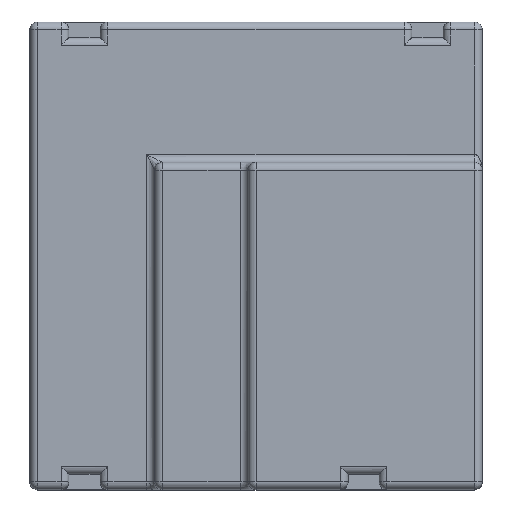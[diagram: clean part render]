
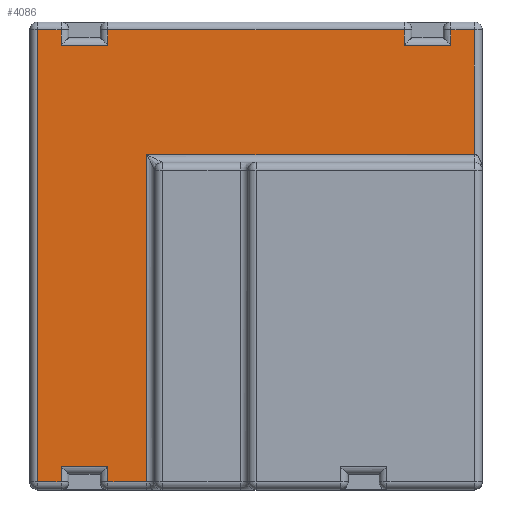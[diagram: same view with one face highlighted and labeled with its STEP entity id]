
A CAD part, top view. The second image highlights one B-rep face of the part: STEP entity #4086.
In plain terms, the highlighted planar face has unit normal (0, 0, 1).
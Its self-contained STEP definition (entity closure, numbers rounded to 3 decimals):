
#1080=CARTESIAN_POINT('',(7.5,-8.5,10.2));
#1090=DIRECTION('',(-1.,0.,0.));
#1091=VECTOR('',#1090,21.);
#1092=CARTESIAN_POINT('',(28.5,-8.5,10.2));
#1093=LINE('',#1092,#1091);
#1165=DIRECTION('',(0.,-1.,0.));
#1166=VECTOR('',#1165,21.);
#1167=CARTESIAN_POINT('',(7.5,-8.5,10.2));
#1168=LINE('',#1167,#1166);
#1198=DIRECTION('',(-1.,0.,0.));
#1199=VECTOR('',#1198,2.5);
#1200=CARTESIAN_POINT('',(7.5,-29.5,10.2));
#1201=LINE('',#1200,#1199);
#1371=DIRECTION('',(0.,-1.,0.));
#1372=VECTOR('',#1371,1.);
#1373=CARTESIAN_POINT('',(2.,-28.5,10.2));
#1374=LINE('',#1373,#1372);
#1385=DIRECTION('',(0.,1.,0.));
#1386=VECTOR('',#1385,1.);
#1387=CARTESIAN_POINT('',(27.,-1.5,10.2));
#1388=LINE('',#1387,#1386);
#1509=DIRECTION('',(0.,-1.,0.));
#1510=VECTOR('',#1509,8.);
#1511=CARTESIAN_POINT('',(28.5,-0.5,10.2));
#1512=LINE('',#1511,#1510);
#1572=DIRECTION('',(1.,0.,0.));
#1573=VECTOR('',#1572,1.5);
#1574=CARTESIAN_POINT('',(27.,-0.5,10.2));
#1575=LINE('',#1574,#1573);
#1636=DIRECTION('',(1.,0.,0.));
#1637=VECTOR('',#1636,3.);
#1638=CARTESIAN_POINT('',(24.,-1.5,10.2));
#1639=LINE('',#1638,#1637);
#1686=CARTESIAN_POINT('',(27.,-1.5,10.2));
#1703=DIRECTION('',(0.,-1.,0.));
#1704=VECTOR('',#1703,1.);
#1705=CARTESIAN_POINT('',(24.,-0.5,10.2));
#1706=LINE('',#1705,#1704);
#1750=DIRECTION('',(1.,0.,0.));
#1751=VECTOR('',#1750,19.);
#1752=CARTESIAN_POINT('',(5.,-0.5,10.2));
#1753=LINE('',#1752,#1751);
#1804=DIRECTION('',(0.,1.,0.));
#1805=VECTOR('',#1804,1.);
#1806=CARTESIAN_POINT('',(5.,-1.5,10.2));
#1807=LINE('',#1806,#1805);
#1848=DIRECTION('',(1.,0.,0.));
#1849=VECTOR('',#1848,3.);
#1850=CARTESIAN_POINT('',(2.,-1.5,10.2));
#1851=LINE('',#1850,#1849);
#1942=DIRECTION('',(0.,-1.,0.));
#1943=VECTOR('',#1942,1.);
#1944=CARTESIAN_POINT('',(2.,-0.5,10.2));
#1945=LINE('',#1944,#1943);
#2011=DIRECTION('',(1.,0.,0.));
#2012=VECTOR('',#2011,1.5);
#2013=CARTESIAN_POINT('',(0.5,-0.5,10.2));
#2014=LINE('',#2013,#2012);
#2086=DIRECTION('',(0.,1.,0.));
#2087=VECTOR('',#2086,29.);
#2088=CARTESIAN_POINT('',(0.5,-29.5,10.2));
#2089=LINE('',#2088,#2087);
#2161=DIRECTION('',(-1.,0.,0.));
#2162=VECTOR('',#2161,1.5);
#2163=CARTESIAN_POINT('',(2.,-29.5,10.2));
#2164=LINE('',#2163,#2162);
#2175=DIRECTION('',(0.,1.,0.));
#2176=VECTOR('',#2175,1.);
#2177=CARTESIAN_POINT('',(5.,-29.5,10.2));
#2178=LINE('',#2177,#2176);
#2212=DIRECTION('',(-1.,0.,0.));
#2213=VECTOR('',#2212,3.);
#2214=CARTESIAN_POINT('',(5.,-28.5,10.2));
#2215=LINE('',#2214,#2213);
#2626=VERTEX_POINT('',#1080);
#2686=CARTESIAN_POINT('',(7.5,-29.5,10.2));
#2687=VERTEX_POINT('',#2686);
#2705=CARTESIAN_POINT('',(24.,-0.5,10.2));
#2706=VERTEX_POINT('',#2705);
#2707=CARTESIAN_POINT('',(24.,-1.5,10.2));
#2708=VERTEX_POINT('',#2707);
#2712=CARTESIAN_POINT('',(27.,-0.5,10.2));
#2714=VERTEX_POINT('',#2712);
#2720=VERTEX_POINT('',#1686);
#2729=CARTESIAN_POINT('',(5.,-0.5,10.2));
#2730=VERTEX_POINT('',#2729);
#2731=CARTESIAN_POINT('',(5.,-1.5,10.2));
#2732=VERTEX_POINT('',#2731);
#2733=CARTESIAN_POINT('',(2.,-1.5,10.2));
#2734=VERTEX_POINT('',#2733);
#2735=CARTESIAN_POINT('',(2.,-0.5,10.2));
#2736=VERTEX_POINT('',#2735);
#2737=CARTESIAN_POINT('',(0.5,-0.5,10.2));
#2738=VERTEX_POINT('',#2737);
#2739=CARTESIAN_POINT('',(0.5,-29.5,10.2));
#2740=VERTEX_POINT('',#2739);
#2741=CARTESIAN_POINT('',(2.,-29.5,10.2));
#2742=VERTEX_POINT('',#2741);
#2743=CARTESIAN_POINT('',(2.,-28.5,10.2));
#2744=VERTEX_POINT('',#2743);
#2745=CARTESIAN_POINT('',(5.,-28.5,10.2));
#2746=VERTEX_POINT('',#2745);
#2747=CARTESIAN_POINT('',(5.,-29.5,10.2));
#2748=VERTEX_POINT('',#2747);
#2749=CARTESIAN_POINT('',(28.5,-8.5,10.2));
#2750=VERTEX_POINT('',#2749);
#2751=CARTESIAN_POINT('',(28.5,-0.5,10.2));
#2752=VERTEX_POINT('',#2751);
#4047=CARTESIAN_POINT('',(8.,0.,10.2));
#4048=DIRECTION('',(0.,0.,-1.));
#4049=DIRECTION('',(-1.,0.,0.));
#4050=AXIS2_PLACEMENT_3D('',#4047,#4048,#4049);
#4051=PLANE('',#4050);
#4053=ORIENTED_EDGE('',*,*,#4052,.T.);
#4055=ORIENTED_EDGE('',*,*,#4054,.T.);
#4057=ORIENTED_EDGE('',*,*,#4056,.T.);
#4058=ORIENTED_EDGE('',*,*,#3805,.T.);
#4059=ORIENTED_EDGE('',*,*,#3893,.T.);
#4060=ORIENTED_EDGE('',*,*,#3919,.T.);
#4062=ORIENTED_EDGE('',*,*,#4061,.T.);
#4064=ORIENTED_EDGE('',*,*,#4063,.T.);
#4065=ORIENTED_EDGE('',*,*,#4036,.T.);
#4067=ORIENTED_EDGE('',*,*,#4066,.T.);
#4069=ORIENTED_EDGE('',*,*,#4068,.T.);
#4071=ORIENTED_EDGE('',*,*,#4070,.T.);
#4073=ORIENTED_EDGE('',*,*,#4072,.T.);
#4075=ORIENTED_EDGE('',*,*,#4074,.T.);
#4077=ORIENTED_EDGE('',*,*,#4076,.T.);
#4079=ORIENTED_EDGE('',*,*,#4078,.T.);
#4081=ORIENTED_EDGE('',*,*,#4080,.T.);
#4083=ORIENTED_EDGE('',*,*,#4082,.T.);
#4084=EDGE_LOOP('',(#4053,#4055,#4057,#4058,#4059,#4060,#4062,#4064,#4065,#4067,
#4069,#4071,#4073,#4075,#4077,#4079,#4081,#4083));
#4085=FACE_OUTER_BOUND('',#4084,.F.);
#4086=ADVANCED_FACE('',(#4085),#4051,.F.);
#3805=EDGE_CURVE('',#2750,#2626,#1093,.T.);
#3893=EDGE_CURVE('',#2626,#2687,#1168,.T.);
#3919=EDGE_CURVE('',#2687,#2748,#1201,.T.);
#4036=EDGE_CURVE('',#2744,#2742,#1374,.T.);
#4052=EDGE_CURVE('',#2720,#2714,#1388,.T.);
#4054=EDGE_CURVE('',#2714,#2752,#1575,.T.);
#4056=EDGE_CURVE('',#2752,#2750,#1512,.T.);
#4061=EDGE_CURVE('',#2748,#2746,#2178,.T.);
#4063=EDGE_CURVE('',#2746,#2744,#2215,.T.);
#4066=EDGE_CURVE('',#2742,#2740,#2164,.T.);
#4068=EDGE_CURVE('',#2740,#2738,#2089,.T.);
#4070=EDGE_CURVE('',#2738,#2736,#2014,.T.);
#4072=EDGE_CURVE('',#2736,#2734,#1945,.T.);
#4074=EDGE_CURVE('',#2734,#2732,#1851,.T.);
#4076=EDGE_CURVE('',#2732,#2730,#1807,.T.);
#4078=EDGE_CURVE('',#2730,#2706,#1753,.T.);
#4080=EDGE_CURVE('',#2706,#2708,#1706,.T.);
#4082=EDGE_CURVE('',#2708,#2720,#1639,.T.);
